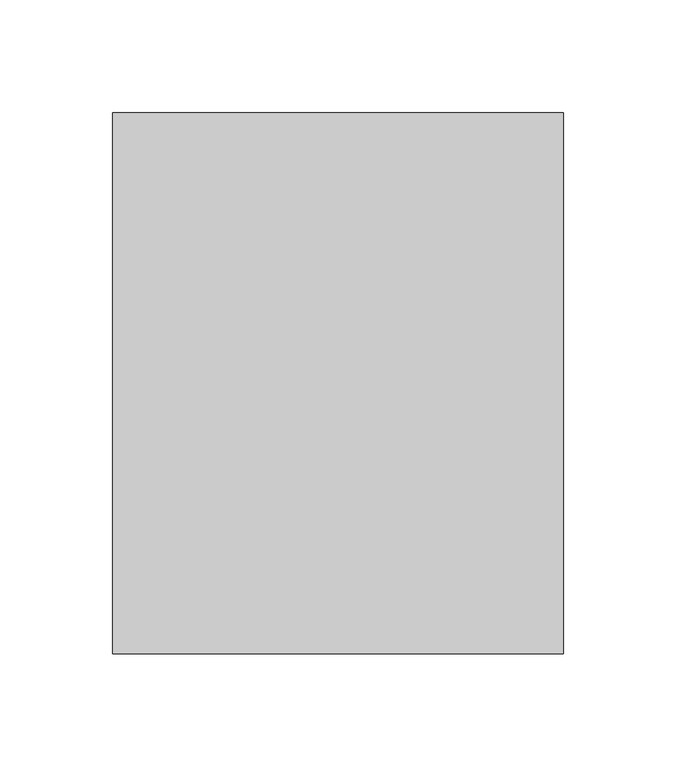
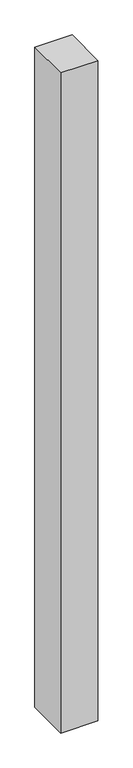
"""IFC4 building model written with IfcOpenShell, lengths in millimetres: column geometry, Poteaux porteurs - Poteau béton - Rectangulaire - 2000mm x 240 mm."""

from ifc_helpers import new_model, si_unit, frame, origin, place, context, project, spatial, polyline, outline, extrude, source, transform, mapped, element, save


def column_f8625688(model_context):
    return source(origin(), model_context, "Body", "SweptSolid", [
        extrude(outline(polyline([(-100.0, 120.0), (100.0, 120.0), (100.0, -120.0), (-100.0, -120.0), (-100.0, 120.0)])), frame((0.0, 0.0, -200.0), z_axis=(0.0, 0.0, 1.0), x_axis=(1.0, 0.0, 0.0)), (0.0, 0.0, 1.0), 3750.0),
    ])


if __name__ == "__main__":
    model = new_model("IFC4")
    model_context = context("Model", 3, world=origin())
    ifc_project = project(units=[si_unit("LENGTHUNIT", "METRE", prefix="MILLI")], contexts=[model_context])
    site = spatial("IfcSite", under=ifc_project)
    building = spatial("IfcBuilding", under=site)
    placement = place(None, origin())
    column_shape = column_f8625688(model_context)
    element("IfcColumn", 1, ObjectType="Poteaux porteurs - Poteau béton - Rectangulaire - 2000mm x 240 mm", at=placement, inside=building, context=model_context, shape_type="MappedRepresentation", body=[
        mapped(column_shape, transform((0.0, 0.0, 0.0), x_axis=(1.0, 0.0, 0.0), y_axis=(0.0, 1.0, 0.0), z_axis=(0.0, 0.0, 1.0))),
    ])
    save(model, "model.ifc")
